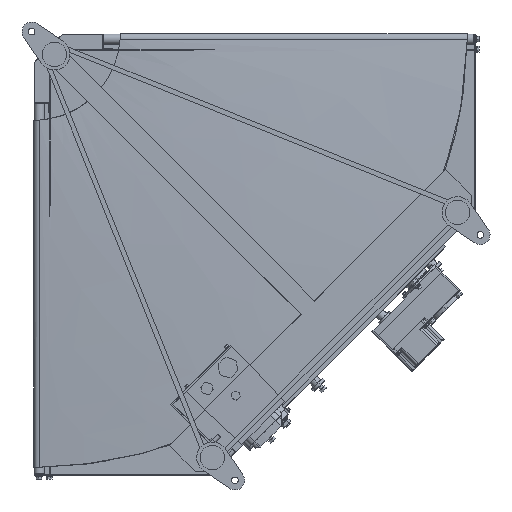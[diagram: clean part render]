
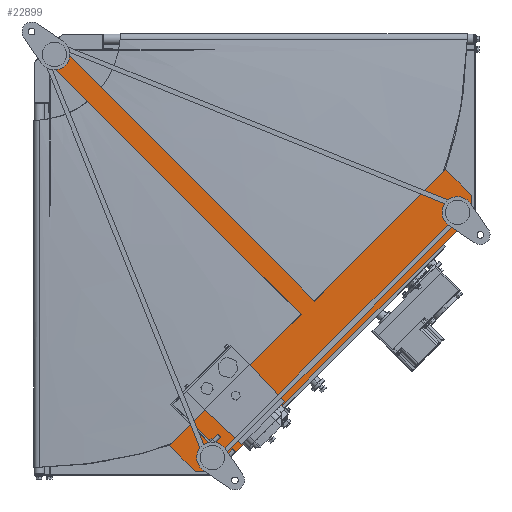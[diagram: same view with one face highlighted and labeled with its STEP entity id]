
A CAD part, front view. The second image highlights one B-rep face of the part: STEP entity #22899.
In plain terms, the highlighted planar face has unit normal (0, -1, 0).
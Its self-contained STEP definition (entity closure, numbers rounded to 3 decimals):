
#103 = LINE ( 'NONE', #16454, #44770 ) ;
#344 = CARTESIAN_POINT ( 'NONE',  ( 856.66, -167.5, -315.723 ) ) ;
#582 = VECTOR ( 'NONE', #29498, 1000. ) ;
#765 = EDGE_CURVE ( 'NONE', #7016, #31123, #39445, .T. ) ;
#776 = VERTEX_POINT ( 'NONE', #27963 ) ;
#1551 = ORIENTED_EDGE ( 'NONE', *, *, #45065, .F. ) ;
#2742 = LINE ( 'NONE', #40491, #25303 ) ;
#3630 = CARTESIAN_POINT ( 'NONE',  ( 15.203, -167.5, -42.073 ) ) ;
#4492 = FACE_OUTER_BOUND ( 'NONE', #28341, .T. ) ;
#4800 = VERTEX_POINT ( 'NONE', #22273 ) ;
#5818 = DIRECTION ( 'NONE',  ( 0., 0., -1. ) ) ;
#6394 = DIRECTION ( 'NONE',  ( 0.707, 0., -0.707 ) ) ;
#6579 = DIRECTION ( 'NONE',  ( 0.707, 0., 0.707 ) ) ;
#7016 = VERTEX_POINT ( 'NONE', #344 ) ;
#7682 = CARTESIAN_POINT ( 'NONE',  ( 807.162, -167.5, -266.226 ) ) ;
#8316 = VECTOR ( 'NONE', #6579, 1000. ) ;
#9226 = CARTESIAN_POINT ( 'NONE',  ( 856.66, -167.5, -358.15 ) ) ;
#9415 = CARTESIAN_POINT ( 'NONE',  ( 266.226, -167.5, -807.162 ) ) ;
#10295 = ORIENTED_EDGE ( 'NONE', *, *, #765, .F. ) ;
#10441 = VECTOR ( 'NONE', #5818, 1000. ) ;
#10618 = CARTESIAN_POINT ( 'NONE',  ( 266.226, -167.5, -807.162 ) ) ;
#11952 = CARTESIAN_POINT ( 'NONE',  ( 315.723, -167.5, -856.66 ) ) ;
#12815 = VERTEX_POINT ( 'NONE', #7682 ) ;
#14713 = DIRECTION ( 'NONE',  ( -1., 0., 0. ) ) ;
#14899 = DIRECTION ( 'NONE',  ( 0.707, 0., -0.707 ) ) ;
#15243 = VERTEX_POINT ( 'NONE', #40084 ) ;
#15291 = ORIENTED_EDGE ( 'NONE', *, *, #28151, .F. ) ;
#15385 = EDGE_CURVE ( 'NONE', #15243, #33171, #41776, .T. ) ;
#15446 = CARTESIAN_POINT ( 'NONE',  ( 266.226, -167.5, -807.162 ) ) ;
#15761 = ORIENTED_EDGE ( 'NONE', *, *, #15385, .F. ) ;
#16454 = CARTESIAN_POINT ( 'NONE',  ( 358.15, -167.5, -856.66 ) ) ;
#17120 = LINE ( 'NONE', #15446, #30993 ) ;
#17430 = AXIS2_PLACEMENT_3D ( 'NONE', #25706, #18738, #29429 ) ;
#18424 = ORIENTED_EDGE ( 'NONE', *, *, #29431, .F. ) ;
#18430 = PLANE ( 'NONE',  #17430 ) ;
#18457 = EDGE_CURVE ( 'NONE', #28185, #15243, #45013, .T. ) ;
#18738 = DIRECTION ( 'NONE',  ( 0., -1., 0. ) ) ;
#18877 = DIRECTION ( 'NONE',  ( -0.707, 0., 0.707 ) ) ;
#20430 = CARTESIAN_POINT ( 'NONE',  ( 807.162, -167.5, -266.226 ) ) ;
#21339 = VECTOR ( 'NONE', #14899, 1000. ) ;
#21741 = CARTESIAN_POINT ( 'NONE',  ( 42.073, -167.5, -15.203 ) ) ;
#22051 = ORIENTED_EDGE ( 'NONE', *, *, #44627, .F. ) ;
#22273 = CARTESIAN_POINT ( 'NONE',  ( 358.15, -167.5, -856.66 ) ) ;
#22876 = LINE ( 'NONE', #9415, #34461 ) ;
#22899 = ADVANCED_FACE ( 'NONE', ( #4492 ), #18430, .T. ) ;
#23507 = LINE ( 'NONE', #20430, #32233 ) ;
#23774 = DIRECTION ( 'NONE',  ( 0.707, 0., 0.707 ) ) ;
#25009 = CARTESIAN_POINT ( 'NONE',  ( 550.129, -167.5, -523.259 ) ) ;
#25303 = VECTOR ( 'NONE', #14713, 1000. ) ;
#25706 = CARTESIAN_POINT ( 'NONE',  ( 0., -167.5, 0. ) ) ;
#25736 = ORIENTED_EDGE ( 'NONE', *, *, #45702, .F. ) ;
#26841 = EDGE_CURVE ( 'NONE', #43350, #776, #17120, .T. ) ;
#27963 = CARTESIAN_POINT ( 'NONE',  ( 266.226, -167.5, -807.162 ) ) ;
#28151 = EDGE_CURVE ( 'NONE', #776, #28185, #44867, .T. ) ;
#28155 = ORIENTED_EDGE ( 'NONE', *, *, #18457, .F. ) ;
#28185 = VERTEX_POINT ( 'NONE', #37659 ) ;
#28341 = EDGE_LOOP ( 'NONE', ( #28155, #15291, #40013, #22051, #18424, #10295, #1551, #25736, #41311, #15761 ) ) ;
#29429 = DIRECTION ( 'NONE',  ( 0., 0., -1. ) ) ;
#29431 = EDGE_CURVE ( 'NONE', #31123, #4800, #103, .T. ) ;
#29498 = DIRECTION ( 'NONE',  ( 0.707, 0., 0.707 ) ) ;
#29602 = CARTESIAN_POINT ( 'NONE',  ( 856.66, -167.5, -358.15 ) ) ;
#30993 = VECTOR ( 'NONE', #34057, 1000. ) ;
#31123 = VERTEX_POINT ( 'NONE', #29602 ) ;
#31210 = LINE ( 'NONE', #44441, #21339 ) ;
#32233 = VECTOR ( 'NONE', #6394, 1000. ) ;
#33171 = VERTEX_POINT ( 'NONE', #21741 ) ;
#34057 = DIRECTION ( 'NONE',  ( -0.707, 0., 0.707 ) ) ;
#34461 = VECTOR ( 'NONE', #23774, 1000. ) ;
#35094 = VECTOR ( 'NONE', #18877, 1000. ) ;
#35659 = VERTEX_POINT ( 'NONE', #25009 ) ;
#37659 = CARTESIAN_POINT ( 'NONE',  ( 523.259, -167.5, -550.129 ) ) ;
#39445 = LINE ( 'NONE', #9226, #10441 ) ;
#40013 = ORIENTED_EDGE ( 'NONE', *, *, #26841, .F. ) ;
#40084 = CARTESIAN_POINT ( 'NONE',  ( 15.203, -167.5, -42.073 ) ) ;
#40491 = CARTESIAN_POINT ( 'NONE',  ( 315.723, -167.5, -856.66 ) ) ;
#41150 = CARTESIAN_POINT ( 'NONE',  ( 15.203, -167.5, -42.073 ) ) ;
#41311 = ORIENTED_EDGE ( 'NONE', *, *, #46595, .F. ) ;
#41776 = LINE ( 'NONE', #3630, #582 ) ;
#43350 = VERTEX_POINT ( 'NONE', #11952 ) ;
#44441 = CARTESIAN_POINT ( 'NONE',  ( 42.073, -167.5, -15.203 ) ) ;
#44627 = EDGE_CURVE ( 'NONE', #4800, #43350, #2742, .T. ) ;
#44770 = VECTOR ( 'NONE', #46501, 1000. ) ;
#44867 = LINE ( 'NONE', #10618, #8316 ) ;
#45013 = LINE ( 'NONE', #41150, #35094 ) ;
#45065 = EDGE_CURVE ( 'NONE', #12815, #7016, #23507, .T. ) ;
#45702 = EDGE_CURVE ( 'NONE', #35659, #12815, #22876, .T. ) ;
#46501 = DIRECTION ( 'NONE',  ( -0.707, 0., -0.707 ) ) ;
#46595 = EDGE_CURVE ( 'NONE', #33171, #35659, #31210, .T. ) ;
